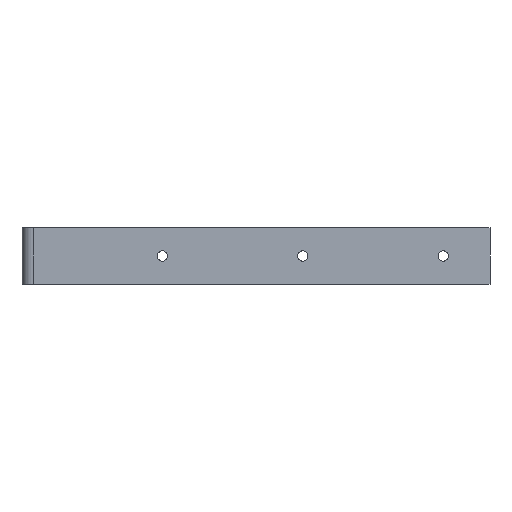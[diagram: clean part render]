
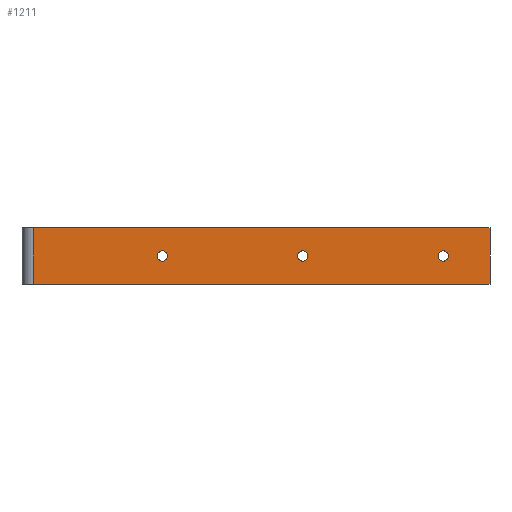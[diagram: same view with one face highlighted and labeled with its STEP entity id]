
A CAD part, left-side view. The second image highlights one B-rep face of the part: STEP entity #1211.
In plain terms, the highlighted planar face has unit normal (-1, 0, 0).
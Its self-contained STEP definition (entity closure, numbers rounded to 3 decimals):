
#2 = CARTESIAN_POINT ( 'NONE',  ( -5., -1., 15. ) ) ;
#7 = AXIS2_PLACEMENT_3D ( 'NONE', #739, #935, #83 ) ;
#25 = EDGE_CURVE ( 'NONE', #239, #375, #1152, .T. ) ;
#43 = EDGE_LOOP ( 'NONE', ( #775, #1060 ) ) ;
#53 = CARTESIAN_POINT ( 'NONE',  ( -5., -147.75, 0. ) ) ;
#58 = ORIENTED_EDGE ( 'NONE', *, *, #1009, .F. ) ;
#64 = LINE ( 'NONE', #355, #1224 ) ;
#73 = DIRECTION ( 'NONE',  ( 0., -1., 0. ) ) ;
#83 = DIRECTION ( 'NONE',  ( 0., -1., 0. ) ) ;
#92 = AXIS2_PLACEMENT_3D ( 'NONE', #107, #962, #1167 ) ;
#96 = DIRECTION ( 'NONE',  ( -1., 0., 0. ) ) ;
#107 = CARTESIAN_POINT ( 'NONE',  ( -5., -220., 0. ) ) ;
#147 = AXIS2_PLACEMENT_3D ( 'NONE', #1172, #1045, #877 ) ;
#173 = EDGE_CURVE ( 'NONE', #829, #303, #257, .T. ) ;
#226 = CARTESIAN_POINT ( 'NONE',  ( -5., -72.75, 0. ) ) ;
#239 = VERTEX_POINT ( 'NONE', #959 ) ;
#251 = CARTESIAN_POINT ( 'NONE',  ( -5., -1., 15. ) ) ;
#252 = VERTEX_POINT ( 'NONE', #732 ) ;
#257 = LINE ( 'NONE', #251, #1071 ) ;
#264 = EDGE_CURVE ( 'NONE', #252, #429, #664, .T. ) ;
#276 = DIRECTION ( 'NONE',  ( 0., -1., 0. ) ) ;
#283 = FACE_BOUND ( 'NONE', #1214, .T. ) ;
#286 = DIRECTION ( 'NONE',  ( 0., -1., 0. ) ) ;
#303 = VERTEX_POINT ( 'NONE', #572 ) ;
#309 = VECTOR ( 'NONE', #816, 1000. ) ;
#315 = EDGE_CURVE ( 'NONE', #468, #597, #764, .T. ) ;
#341 = CARTESIAN_POINT ( 'NONE',  ( -5., -245., -15. ) ) ;
#346 = ORIENTED_EDGE ( 'NONE', *, *, #264, .F. ) ;
#355 = CARTESIAN_POINT ( 'NONE',  ( -5., -1., 15. ) ) ;
#375 = VERTEX_POINT ( 'NONE', #846 ) ;
#384 = DIRECTION ( 'NONE',  ( 0., -1., 0. ) ) ;
#416 = CARTESIAN_POINT ( 'NONE',  ( -5., -1., 15. ) ) ;
#429 = VERTEX_POINT ( 'NONE', #226 ) ;
#435 = CARTESIAN_POINT ( 'NONE',  ( -5., -245., -15. ) ) ;
#468 = VERTEX_POINT ( 'NONE', #789 ) ;
#530 = ORIENTED_EDGE ( 'NONE', *, *, #173, .T. ) ;
#531 = LINE ( 'NONE', #435, #309 ) ;
#560 = ORIENTED_EDGE ( 'NONE', *, *, #25, .F. ) ;
#572 = CARTESIAN_POINT ( 'NONE',  ( -5., -1., -15. ) ) ;
#585 = DIRECTION ( 'NONE',  ( 1., 0., 0. ) ) ;
#593 = FACE_BOUND ( 'NONE', #43, .T. ) ;
#596 = PLANE ( 'NONE',  #625 ) ;
#597 = VERTEX_POINT ( 'NONE', #53 ) ;
#625 = AXIS2_PLACEMENT_3D ( 'NONE', #2, #585, #1066 ) ;
#626 = EDGE_LOOP ( 'NONE', ( #1035, #58, #769, #530 ) ) ;
#661 = DIRECTION ( 'NONE',  ( -1., 0., 0. ) ) ;
#664 = CIRCLE ( 'NONE', #1178, 2.75 ) ;
#720 = AXIS2_PLACEMENT_3D ( 'NONE', #1119, #746, #722 ) ;
#722 = DIRECTION ( 'NONE',  ( 0., -1., 0. ) ) ;
#726 = DIRECTION ( 'NONE',  ( 0., 0., -1. ) ) ;
#732 = CARTESIAN_POINT ( 'NONE',  ( -5., -67.25, 0. ) ) ;
#737 = LINE ( 'NONE', #945, #948 ) ;
#738 = EDGE_CURVE ( 'NONE', #597, #468, #1154, .T. ) ;
#739 = CARTESIAN_POINT ( 'NONE',  ( -5., -145., 0. ) ) ;
#746 = DIRECTION ( 'NONE',  ( -1., 0., 0. ) ) ;
#764 = CIRCLE ( 'NONE', #7, 2.75 ) ;
#766 = FACE_BOUND ( 'NONE', #1100, .T. ) ;
#769 = ORIENTED_EDGE ( 'NONE', *, *, #1062, .F. ) ;
#771 = CIRCLE ( 'NONE', #92, 2.75 ) ;
#775 = ORIENTED_EDGE ( 'NONE', *, *, #738, .F. ) ;
#782 = EDGE_CURVE ( 'NONE', #303, #1018, #737, .T. ) ;
#789 = CARTESIAN_POINT ( 'NONE',  ( -5., -142.25, 0. ) ) ;
#816 = DIRECTION ( 'NONE',  ( 0., 0., -1. ) ) ;
#829 = VERTEX_POINT ( 'NONE', #416 ) ;
#832 = ORIENTED_EDGE ( 'NONE', *, *, #1164, .F. ) ;
#846 = CARTESIAN_POINT ( 'NONE',  ( -5., -222.75, 0. ) ) ;
#859 = CARTESIAN_POINT ( 'NONE',  ( -5., -145., 0. ) ) ;
#862 = FACE_OUTER_BOUND ( 'NONE', #626, .T. ) ;
#877 = DIRECTION ( 'NONE',  ( 0., -1., 0. ) ) ;
#893 = AXIS2_PLACEMENT_3D ( 'NONE', #859, #96, #384 ) ;
#900 = CARTESIAN_POINT ( 'NONE',  ( -5., -245., 15. ) ) ;
#935 = DIRECTION ( 'NONE',  ( -1., 0., 0. ) ) ;
#945 = CARTESIAN_POINT ( 'NONE',  ( -5., -1., -15. ) ) ;
#948 = VECTOR ( 'NONE', #286, 1000. ) ;
#952 = CIRCLE ( 'NONE', #720, 2.75 ) ;
#959 = CARTESIAN_POINT ( 'NONE',  ( -5., -217.25, 0. ) ) ;
#962 = DIRECTION ( 'NONE',  ( -1., 0., 0. ) ) ;
#980 = VERTEX_POINT ( 'NONE', #900 ) ;
#1009 = EDGE_CURVE ( 'NONE', #980, #1018, #531, .T. ) ;
#1018 = VERTEX_POINT ( 'NONE', #341 ) ;
#1035 = ORIENTED_EDGE ( 'NONE', *, *, #782, .T. ) ;
#1045 = DIRECTION ( 'NONE',  ( -1., 0., 0. ) ) ;
#1050 = CARTESIAN_POINT ( 'NONE',  ( -5., -70., 0. ) ) ;
#1060 = ORIENTED_EDGE ( 'NONE', *, *, #315, .F. ) ;
#1062 = EDGE_CURVE ( 'NONE', #829, #980, #64, .T. ) ;
#1066 = DIRECTION ( 'NONE',  ( 0., 1., 0. ) ) ;
#1071 = VECTOR ( 'NONE', #726, 1000. ) ;
#1100 = EDGE_LOOP ( 'NONE', ( #832, #346 ) ) ;
#1119 = CARTESIAN_POINT ( 'NONE',  ( -5., -70., 0. ) ) ;
#1152 = CIRCLE ( 'NONE', #147, 2.75 ) ;
#1154 = CIRCLE ( 'NONE', #893, 2.75 ) ;
#1164 = EDGE_CURVE ( 'NONE', #429, #252, #952, .T. ) ;
#1167 = DIRECTION ( 'NONE',  ( 0., -1., 0. ) ) ;
#1172 = CARTESIAN_POINT ( 'NONE',  ( -5., -220., 0. ) ) ;
#1178 = AXIS2_PLACEMENT_3D ( 'NONE', #1050, #661, #276 ) ;
#1185 = ORIENTED_EDGE ( 'NONE', *, *, #1220, .F. ) ;
#1211 = ADVANCED_FACE ( 'NONE', ( #766, #593, #283, #862 ), #596, .F. ) ;
#1214 = EDGE_LOOP ( 'NONE', ( #1185, #560 ) ) ;
#1220 = EDGE_CURVE ( 'NONE', #375, #239, #771, .T. ) ;
#1224 = VECTOR ( 'NONE', #73, 1000. ) ;
